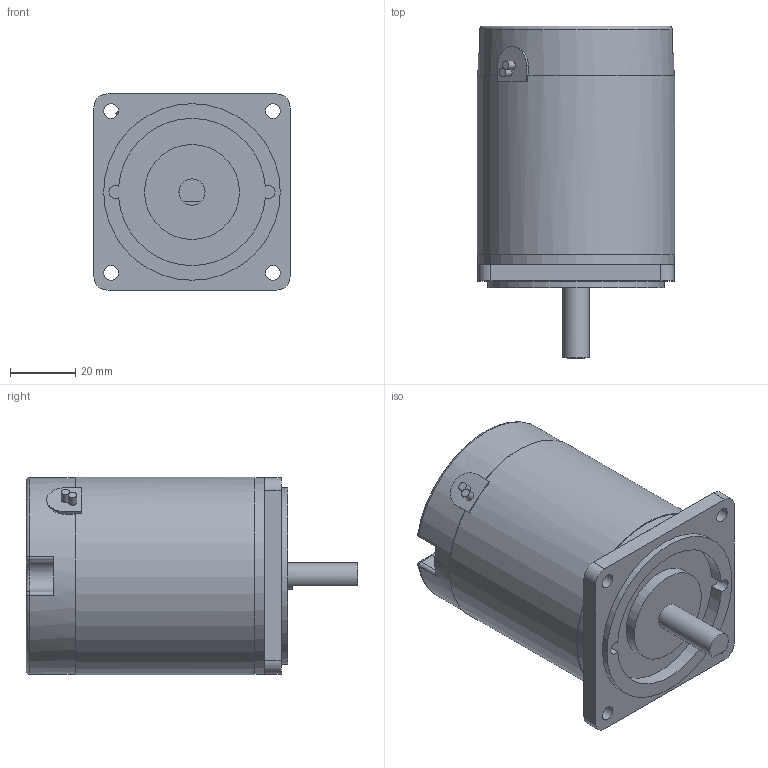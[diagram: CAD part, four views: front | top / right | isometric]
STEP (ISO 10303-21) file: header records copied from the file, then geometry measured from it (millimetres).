
FILE_DESCRIPTION((''),'2;1');
FILE_NAME('E:\2공장-도면\3D\표준형 3D(민규)\step file\K6DS6N.stp','2014-11-06T14:03:28',('AHN'),(''),'Autodesk Inventor 2012','Autodesk Inventor 2012','');
FILE_SCHEMA(('CONFIG_CONTROL_DESIGN'));
Length unit declared in the file: millimetre
Products named in the file (1): K6DS6N
Bounding box: 60.5 x 101.5 x 60.5 mm (x, y, z)
Volume: 226249.2 mm3; surface area: 24522.6 mm2
Topology: 1 solids, 1 shells, 69 faces, 161 edges, 98 vertices
Faces by surface type: cylinder 31, plane 30, torus 4, sphere 4
Full cylindrical faces by diameter (mm): 2.6 x2, 4.5 x4, 8 x1, 29 x1, 54 x1, 60 x2, 60.5 x1
Entity records: 1927 total; most frequent: DIRECTION 361, CARTESIAN_POINT 325, ORIENTED_EDGE 290, AXIS2_PLACEMENT_3D 147, EDGE_CURVE 145, VERTEX_POINT 93, EDGE_LOOP 93, CIRCLE 77
